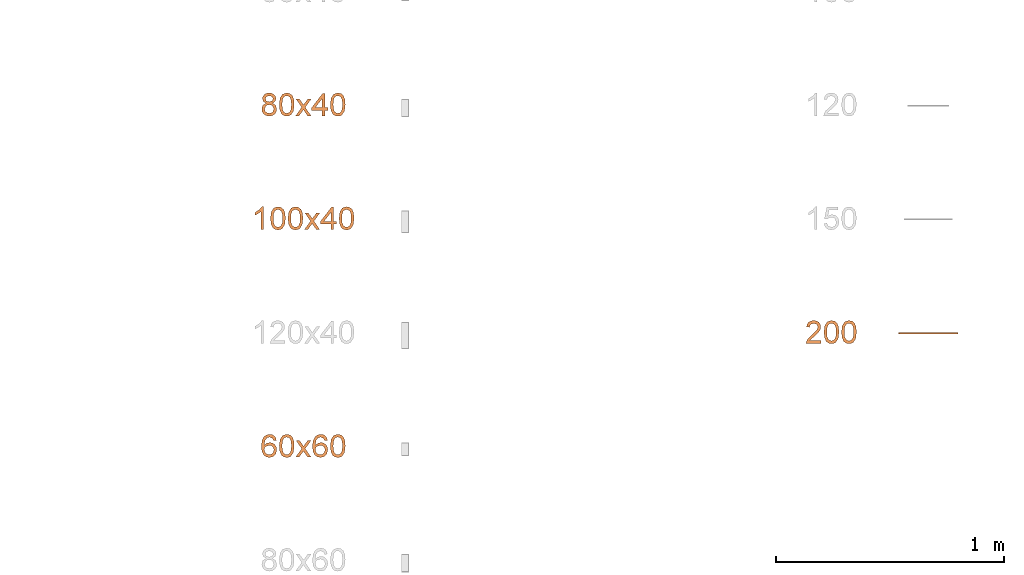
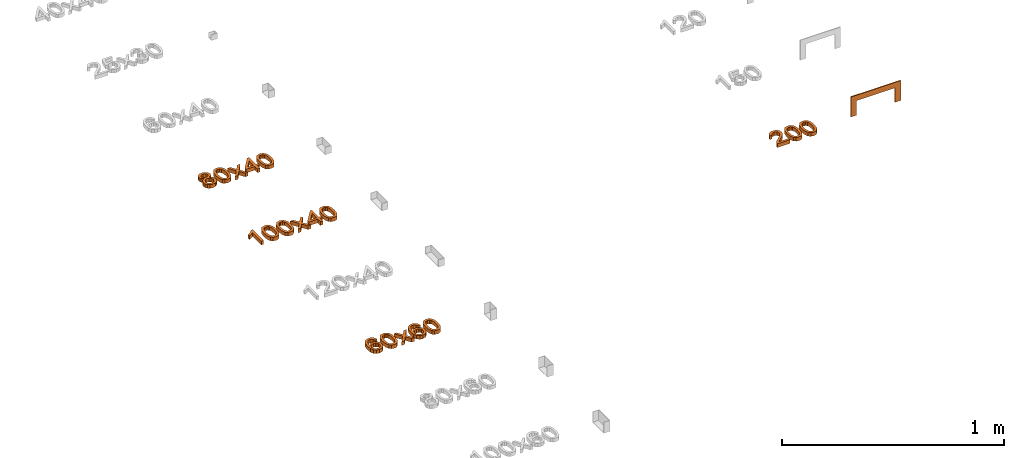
# One storey, part 64 of 71: 5 proxies.
"""IFC2X3 building model written with IfcOpenShell, lengths in millimetres."""

from ifc_helpers import new_model, entity, si_unit, converted_unit, derived_unit, direction, frame, origin, place, context, subcontext, project, spatial, polyline, outline, extrude, source, transform, mapped, material, type_object, type_shapes, element, save


model = new_model("IFC2X3")

# Units and contexts
model_context = context("Model", 3, precision=0.01, world=origin(), true_north=direction((6.12303176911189e-17, 1.0)))
body_context = subcontext(model_context, "Body", "Model", "MODEL_VIEW")
ifc_project = project(units=[si_unit("LENGTHUNIT", "METRE", prefix="MILLI"), si_unit("AREAUNIT", "SQUARE_METRE"), si_unit("VOLUMEUNIT", "CUBIC_METRE"), converted_unit("PLANEANGLEUNIT", "DEGREE", entity("IfcRatioMeasure", 0.0174532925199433), si_unit("PLANEANGLEUNIT", "RADIAN"), dimensions=[0, 0, 0, 0, 0, 0, 0]), si_unit("MASSUNIT", "GRAM", prefix="KILO"), derived_unit("MASSDENSITYUNIT", [(si_unit("MASSUNIT", "GRAM", prefix="KILO"), 1), (si_unit("LENGTHUNIT", "METRE"), -3)]), si_unit("TIMEUNIT", "SECOND"), si_unit("FREQUENCYUNIT", "HERTZ"), si_unit("THERMODYNAMICTEMPERATUREUNIT", "DEGREE_CELSIUS"), derived_unit("THERMALTRANSMITTANCEUNIT", [(si_unit("MASSUNIT", "GRAM", prefix="KILO"), 1), (si_unit("THERMODYNAMICTEMPERATUREUNIT", "KELVIN"), -1), (si_unit("TIMEUNIT", "SECOND"), -3)]), derived_unit("VOLUMETRICFLOWRATEUNIT", [(si_unit("LENGTHUNIT", "METRE"), 3), (si_unit("TIMEUNIT", "SECOND"), -1)]), si_unit("ELECTRICCURRENTUNIT", "AMPERE"), si_unit("ELECTRICVOLTAGEUNIT", "VOLT"), si_unit("POWERUNIT", "WATT"), si_unit("FORCEUNIT", "NEWTON", prefix="KILO"), si_unit("ILLUMINANCEUNIT", "LUX"), si_unit("LUMINOUSFLUXUNIT", "LUMEN"), si_unit("LUMINOUSINTENSITYUNIT", "CANDELA"), derived_unit("USERDEFINED", [(si_unit("MASSUNIT", "GRAM", prefix="KILO"), -1), (si_unit("LENGTHUNIT", "METRE"), -2), (si_unit("TIMEUNIT", "SECOND"), 3), (si_unit("LUMINOUSFLUXUNIT", "LUMEN"), 1)]), derived_unit("LINEARVELOCITYUNIT", [(si_unit("LENGTHUNIT", "METRE"), 1), (si_unit("TIMEUNIT", "SECOND"), -1)]), si_unit("PRESSUREUNIT", "PASCAL"), derived_unit("USERDEFINED", [(si_unit("LENGTHUNIT", "METRE"), -2), (si_unit("MASSUNIT", "GRAM", prefix="KILO"), 1), (si_unit("TIMEUNIT", "SECOND"), -2)])], contexts=[model_context])

# Site, building, storey
site_placement = place(None, origin())
site = spatial("IfcSite", under=ifc_project, at=site_placement, Name="Default", CompositionType="ELEMENT")
building_placement = place(site_placement, origin())
building = spatial("IfcBuilding", under=site, at=building_placement, Name="Наименование здания", CompositionType="ELEMENT")
storey_placement = place(building_placement, origin())
storey = spatial("IfcBuildingStorey", under=building, at=storey_placement, Name="Этаж 01", CompositionType="ELEMENT", Elevation=0.0)

# Proxies
ifc_material = material(Name="DKC_Пластик_Белый")
building_element_proxy_type = type_object("IfcBuildingElementProxyType", Name="TA-GN 60x...", PredefinedType="NOTDEFINED", material=ifc_material)
shared_shape = source(origin(), body_context, "Body", "SweptSolid", [
    extrude(outline(polyline([(-130.0, -62.5000000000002), (130.0, -62.5000000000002), (130.0, 47.5000000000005), (100.0, 47.5000000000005), (100.0, -32.5000000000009), (-100.0, -32.5000000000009), (-100.0, 47.5000000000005), (-130.0, 47.5000000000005), (-130.0, -62.5000000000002)])), frame((0.0, -5.0, 47.5000000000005), z_axis=(0.0, 1.0, 0.0), x_axis=(1.0, 0.0, 0.0)), (0.0, 0.0, 1.0), 5.00000000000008),
])
type_shapes(building_element_proxy_type, [shared_shape])
proxy_1_placement = place(storey_placement, frame((26885.9059986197, 593.713303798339, 0.0)))
element("IfcBuildingElementProxy", 1, at=proxy_1_placement, inside=storey, type_object=building_element_proxy_type, material=ifc_material, Name="КНС_РамкаДляВводаRQM_ILC_DKC:TA-GN 60x...", ObjectType="TA-GN 60x...", context=body_context, shape_type="MappedRepresentation", body=[
    mapped(shared_shape, transform((0.0, 0.0, 0.0), scale=1.0)),
])
proxy_2_placement = place(storey_placement, origin())
element("IfcBuildingElementProxy", 2, at=proxy_2_placement, inside=storey, Name="Текст модели:100 мм Arial", ObjectType="Текст модели:100 мм Arial", context=body_context, shape_type="SweptSolid", body=[
    extrude(outline(polyline([(10.1224324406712, -11.221212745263), (26.4477736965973, -11.221212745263), (39.6861381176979, -0.0909413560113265), (44.6322314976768, 11.3078156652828), (44.5856416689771, 23.4168603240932), (39.6073830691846, 34.83462909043), (29.7584701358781, 44.1595584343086), (17.4236057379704, 49.7956565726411), (4.98749274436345, 50.1469317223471), (-6.20047708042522, 45.7236060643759), (-14.7909119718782, 37.0359017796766), (-20.0781666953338, 21.0056847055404), (-14.5070621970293, 5.37692494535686), (-28.0684052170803, 5.15563707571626), (-37.7221714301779, -2.60845010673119), (-41.5236361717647, -11.9357006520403), (-41.0036870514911, -22.2232653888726), (-36.1916154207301, -32.1870777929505), (-27.1167126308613, -40.5430713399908), (-16.0503295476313, -45.8123091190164), (-5.18246445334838, -46.5706787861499), (4.3845330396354, -43.2361071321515), (11.5483133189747, -36.2265209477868), (15.2516244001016, -24.0826582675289), (10.1224324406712, -11.221212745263)]), holes=[polyline([(1.34077476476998, -28.9039041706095), (-7.53771017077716, -33.981587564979), (-20.2415350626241, -30.0339976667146), (-28.5905650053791, -19.690281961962), (-26.9800933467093, -9.13787919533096), (-18.1108932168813, -3.8764892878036), (-5.45128168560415, -7.82385811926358), (3.15927028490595, -18.2403048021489), (1.34077476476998, -28.9039041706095)]), polyline([(29.0262968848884, 6.56051660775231), (17.1806533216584, -1.51571690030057), (9.68494123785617, -1.27757268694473), (1.95268767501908, 2.32885586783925), (-4.46267094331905, 8.27886886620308), (-7.64161156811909, 15.3010558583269), (-4.59707955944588, 29.6929468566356), (7.31333657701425, 37.7994665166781), (14.8367372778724, 37.4872096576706), (22.6595729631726, 33.8012523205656), (30.3730358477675, 25.5864099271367), (32.5711030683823, 15.5727469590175), (29.0262968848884, 6.56051660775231)])]), frame((23989.3730739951, 1598.34577768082, 0.0), z_axis=(0.0, 0.0, 1.0), x_axis=(-0.829266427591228, -0.558853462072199, 0.0)), (0.0, 0.0, 1.0), 20.0),
    extrude(outline(polyline([(-7.02884310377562, -33.3490673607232), (17.5323805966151, -33.3490673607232), (35.1984171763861, -27.6137612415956), (43.3439841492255, -18.4876517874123), (47.0516941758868, -5.75150665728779), (46.7162020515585, 4.48638208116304), (43.446577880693, 13.0955287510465), (27.9444305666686, 25.6659118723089), (-0.314338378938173, 32.2325535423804), (-24.0296505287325, 32.367828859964), (-39.4143020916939, 28.0260881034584), (-49.7293680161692, 18.9002174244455), (-54.4436715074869, 4.63998875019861), (-50.8676582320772, -14.1301059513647), (-35.4058547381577, -26.7333390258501), (-7.02884310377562, -33.3490673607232)]), holes=[polyline([(-5.77428774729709, -20.8548320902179), (-25.015764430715, -17.3562860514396), (-36.7257089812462, -11.5717922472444), (-41.0962588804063, -4.77599682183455), (-41.9669219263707, 3.21464792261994), (-39.2244253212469, 11.2791292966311), (-32.8654063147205, 17.2229259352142), (-20.9698370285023, 20.2947501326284), (-1.61768958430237, 19.743314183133), (17.851414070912, 16.270770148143), (28.7803640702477, 10.7141596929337), (33.5546988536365, 3.61815959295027), (34.5599568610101, -4.4725533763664), (31.9421230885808, -12.192319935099), (25.8471825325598, -18.1754808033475), (14.0250679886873, -21.4027476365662), (-5.77428774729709, -20.8548320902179)])]), frame((24067.2152691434, 1592.48792113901, 0.0), z_axis=(0.0, 0.0, 1.0), x_axis=(0.101851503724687, -0.994799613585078, 0.0)), (0.0, 0.0, 1.0), 20.0),
    extrude(outline(polyline([(-34.5302215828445, -38.4265006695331), (-19.4225343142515, -38.4265006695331), (-0.341721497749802, -12.0616243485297), (2.47870713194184, -16.1328517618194), (17.8561745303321, -38.4265006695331), (32.9638617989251, -38.4265006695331), (7.40832586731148, -1.34399555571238), (33.9448804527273, 35.3461020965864), (18.8371931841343, 35.3461020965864), (4.95577923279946, 16.1671874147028), (0.0261604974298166, 9.34910777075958), (-5.66374769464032, 17.6877663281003), (-17.8529044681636, 35.3461020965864), (-32.9605917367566, 35.3461020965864), (-7.69936140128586, -1.34399555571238), (-34.5302215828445, -38.4265006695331)])), frame((24140.0569260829, 1585.09124486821, 0.0)), (0.0, 0.0, 1.0), 20.0),
    extrude(outline(polyline([(-1.14154897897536, -36.3868737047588), (11.4154897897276, -36.3868737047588), (11.4154897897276, -12.8424260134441), (23.9725285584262, -12.8424260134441), (23.9725285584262, -0.285387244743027), (11.4154897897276, -0.285387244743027), (11.4154897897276, 62.499806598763), (1.99771071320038, 62.499806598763), (-46.6608145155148, -0.285387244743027), (-46.6608145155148, -12.8424260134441), (-1.14154897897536, -12.8424260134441), (-1.14154897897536, -36.3868737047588)]), holes=[polyline([(-1.14154897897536, -0.285387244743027), (-31.2097707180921, -0.285387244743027), (-1.14154897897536, 38.5139005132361), (-1.14154897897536, -0.285387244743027)])]), frame((24222.8208620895, 1583.05161790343, 0.0)), (0.0, 0.0, 1.0), 20.0),
    extrude(outline(polyline([(-7.02884310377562, -33.3490673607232), (17.5323805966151, -33.3490673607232), (35.1984171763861, -27.6137612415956), (43.3439841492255, -18.4876517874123), (47.0516941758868, -5.75150665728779), (46.7162020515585, 4.48638208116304), (43.446577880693, 13.0955287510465), (27.9444305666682, 25.6659118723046), (-0.314338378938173, 32.2325535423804), (-24.0296505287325, 32.367828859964), (-39.4143020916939, 28.0260881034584), (-49.7293680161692, 18.9002174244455), (-54.4436715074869, 4.63998875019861), (-50.8676582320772, -14.1301059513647), (-35.4058547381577, -26.7333390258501), (-7.02884310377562, -33.3490673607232)]), holes=[polyline([(-5.77428774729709, -20.8548320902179), (-25.015764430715, -17.3562860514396), (-36.7257089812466, -11.5717922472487), (-41.0962588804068, -4.77599682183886), (-41.9669219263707, 3.21464792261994), (-39.2244253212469, 11.2791292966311), (-32.8654063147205, 17.2229259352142), (-20.9698370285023, 20.2947501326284), (-1.61768958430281, 19.7433141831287), (17.851414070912, 16.270770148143), (28.7803640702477, 10.7141596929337), (33.5546988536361, 3.61815959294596), (34.5599568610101, -4.4725533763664), (31.9421230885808, -12.192319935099), (25.8471825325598, -18.1754808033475), (14.0250679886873, -21.4027476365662), (-5.77428774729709, -20.8548320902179)])]), frame((24291.672337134, 1592.48792113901, 0.0), z_axis=(0.0, 0.0, 1.0), x_axis=(0.101851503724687, -0.994799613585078, 0.0)), (0.0, 0.0, 1.0), 20.0),
])
proxy_3_placement = place(storey_placement, origin())
element("IfcBuildingElementProxy", 3, at=proxy_3_placement, inside=storey, Name="Текст модели:100 мм Arial", ObjectType="Текст модели:100 мм Arial", context=body_context, shape_type="SweptSolid", body=[
    extrude(outline(polyline([(-63.8793021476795, -16.9184842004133), (36.5770080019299, -16.9184842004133), (36.5770080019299, -8.82508030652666), (23.2106288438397, 2.34626961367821), (11.4629304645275, 20.7526321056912), (-0.407395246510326, 20.7526321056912), (5.9324378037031, 7.53340574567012), (14.4059864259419, -4.3614454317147), (-63.8793021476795, -4.3614454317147), (-63.8793021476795, -16.9184842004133)])), frame((23948.1263490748, 1110.54404634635, 0.0), z_axis=(0.0, 0.0, 1.0), x_axis=(0.0, 1.0, 0.0)), (0.0, 0.0, 1.0), 20.0),
    extrude(outline(polyline([(-7.02884310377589, -33.3490673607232), (17.5323805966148, -33.3490673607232), (35.1984171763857, -27.6137612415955), (43.3439841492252, -18.4876517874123), (47.0516941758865, -5.75150665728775), (46.7162020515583, 4.48638208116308), (43.4465778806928, 13.0955287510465), (27.9444305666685, 25.6659118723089), (-0.314338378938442, 32.2325535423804), (-24.0296505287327, 32.367828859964), (-39.4143020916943, 28.0260881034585), (-49.7293680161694, 18.9002174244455), (-54.4436715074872, 4.63998875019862), (-50.8676582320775, -14.1301059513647), (-35.405854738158, -26.7333390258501), (-7.02884310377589, -33.3490673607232)]), holes=[polyline([(-5.77428774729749, -20.8548320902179), (-25.0157644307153, -17.3562860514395), (-36.7257089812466, -11.5717922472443), (-41.0962588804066, -4.77599682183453), (-41.9669219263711, 3.21464792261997), (-39.224425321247, 11.2791292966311), (-32.8654063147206, 17.2229259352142), (-20.9698370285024, 20.2947501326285), (-1.61768958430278, 19.743314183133), (17.8514140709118, 16.270770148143), (28.7803640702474, 10.7141596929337), (33.5546988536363, 3.61815959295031), (34.5599568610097, -4.47255337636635), (31.9421230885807, -12.192319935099), (25.8471825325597, -18.1754808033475), (14.0250679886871, -21.4027476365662), (-5.77428774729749, -20.8548320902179)])]), frame((24028.7593379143, 1092.48792113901, 0.0), z_axis=(0.0, 0.0, 1.0), x_axis=(0.101851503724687, -0.994799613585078, 0.0)), (0.0, 0.0, 1.0), 20.0),
    extrude(outline(polyline([(-7.02884310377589, -33.3490673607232), (17.5323805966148, -33.3490673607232), (35.1984171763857, -27.6137612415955), (43.3439841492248, -18.4876517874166), (47.0516941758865, -5.75150665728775), (46.7162020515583, 4.48638208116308), (43.4465778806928, 13.0955287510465), (27.944430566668, 25.6659118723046), (-0.314338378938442, 32.2325535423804), (-24.0296505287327, 32.367828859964), (-39.4143020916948, 28.0260881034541), (-49.7293680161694, 18.9002174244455), (-54.4436715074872, 4.63998875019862), (-50.867658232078, -14.130105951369), (-35.405854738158, -26.7333390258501), (-7.02884310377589, -33.3490673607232)]), holes=[polyline([(-5.77428774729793, -20.8548320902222), (-25.0157644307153, -17.3562860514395), (-36.725708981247, -11.5717922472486), (-41.096258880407, -4.77599682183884), (-41.9669219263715, 3.21464792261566), (-39.224425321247, 11.2791292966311), (-32.8654063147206, 17.2229259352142), (-20.9698370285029, 20.2947501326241), (-1.61768958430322, 19.7433141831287), (17.8514140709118, 16.270770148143), (28.7803640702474, 10.7141596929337), (33.5546988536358, 3.618159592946), (34.5599568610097, -4.47255337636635), (31.9421230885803, -12.1923199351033), (25.8471825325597, -18.1754808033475), (14.0250679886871, -21.4027476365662), (-5.77428774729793, -20.8548320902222)])]), frame((24105.6712003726, 1092.48792113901, 0.0), z_axis=(0.0, 0.0, 1.0), x_axis=(0.101851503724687, -0.994799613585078, 0.0)), (0.0, 0.0, 1.0), 20.0),
    extrude(outline(polyline([(-34.5302215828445, -38.4265006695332), (-19.4225343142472, -38.4265006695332), (-0.341721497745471, -12.0616243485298), (2.47870713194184, -16.1328517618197), (17.8561745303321, -38.4265006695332), (32.9638617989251, -38.4265006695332), (7.40832586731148, -1.34399555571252), (33.9448804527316, 35.3461020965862), (18.8371931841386, 35.3461020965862), (4.95577923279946, 16.1671874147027), (0.0261604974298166, 9.34910777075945), (-5.66374769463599, 17.6877663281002), (-17.8529044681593, 35.3461020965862), (-32.9605917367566, 35.3461020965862), (-7.69936140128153, -1.34399555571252), (-34.5302215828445, -38.4265006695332)])), frame((24178.512857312, 1085.09124486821, 0.0)), (0.0, 0.0, 1.0), 20.0),
    extrude(outline(polyline([(-1.14154897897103, -36.3868737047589), (11.4154897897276, -36.3868737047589), (11.4154897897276, -12.8424260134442), (23.9725285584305, -12.8424260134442), (23.9725285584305, -0.285387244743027), (11.4154897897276, -0.285387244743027), (11.4154897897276, 62.4998065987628), (1.99771071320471, 62.4998065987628), (-46.6608145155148, -0.285387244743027), (-46.6608145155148, -12.8424260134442), (-1.14154897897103, -12.8424260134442), (-1.14154897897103, -36.3868737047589)]), holes=[polyline([(-1.14154897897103, -0.285387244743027), (-31.2097707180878, -0.285387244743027), (-1.14154897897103, 38.5139005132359), (-1.14154897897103, -0.285387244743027)])]), frame((24261.2767933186, 1083.05161790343, 0.0)), (0.0, 0.0, 1.0), 20.0),
    extrude(outline(polyline([(-7.02884310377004, -33.3490673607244), (17.5323805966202, -33.3490673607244), (35.1984171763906, -27.6137612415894), (43.343984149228, -18.487651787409), (47.0516941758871, -5.75150665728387), (46.716202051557, 4.4863820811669), (43.44657788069, 13.0955287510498), (27.9444305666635, 25.6659118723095), (-0.314338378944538, 32.2325535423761), (-24.0296505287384, 32.3678288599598), (-39.4143020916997, 28.0260881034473), (-49.7293680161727, 18.9002174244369), (-54.4436715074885, 4.63998875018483), (-50.8676582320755, -14.1301059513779), (-35.4058547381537, -26.7333390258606), (-7.02884310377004, -33.3490673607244)]), holes=[polyline([(-5.77428774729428, -20.8548320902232), (-25.0157644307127, -17.3562860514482), (-36.725708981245, -11.571792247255), (-41.0962588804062, -4.77599682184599), (-41.9669219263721, 3.21464792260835), (-39.2244253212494, 11.2791292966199), (-32.8654063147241, 17.2229259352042), (-20.9698370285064, 20.2947501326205), (-1.61768958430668, 19.7433141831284), (17.8514140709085, 16.2707701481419), (28.7803640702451, 10.7141596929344), (33.5546988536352, 3.61815959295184), (34.5599568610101, -4.47255337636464), (31.9421230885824, -12.1923199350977), (25.8471825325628, -18.175480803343), (14.0250679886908, -21.4027476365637), (-5.77428774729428, -20.8548320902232)])]), frame((24330.1282683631, 1092.48792113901, 0.0), z_axis=(0.0, 0.0, 1.0), x_axis=(0.101851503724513, -0.994799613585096, 0.0)), (0.0, 0.0, 1.0), 20.0),
])
proxy_4_placement = place(storey_placement, origin())
element("IfcBuildingElementProxy", 4, at=proxy_4_placement, inside=storey, Name="Текст модели:100 мм Arial", ObjectType="Текст модели:100 мм Arial", context=body_context, shape_type="SweptSolid", body=[
    extrude(outline(polyline([(6.79275401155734, -32.5027761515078), (18.3659045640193, -32.5027761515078), (28.1525204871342, -28.8011371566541), (35.6312934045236, -21.7178704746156), (40.2809149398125, -11.5729874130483), (41.4130789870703, 3.2366707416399), (36.139124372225, 16.3729018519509), (21.8599739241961, 28.8803269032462), (-1.50836821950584, 38.2054593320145), (-23.6059131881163, 41.7609274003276), (-39.9814227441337, 38.5965283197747), (-51.1650797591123, 29.9216784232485), (-57.6870671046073, 16.945794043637), (-57.9805556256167, -0.049487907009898), (-49.2081886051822, -14.3141019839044), (-33.6167855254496, -22.935056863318), (-20.6265742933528, -24.2502330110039), (-8.97800352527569, -20.6254922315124), (0.0919027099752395, -13.0350962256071), (5.34612034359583, -2.45330669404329), (5.85483161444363, 11.6447254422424), (-0.843339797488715, 24.9910631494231), (19.7707676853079, 15.5765036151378), (28.4840991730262, 4.26766164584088), (28.3893512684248, -7.46374532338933), (19.9956250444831, -18.19363367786), (8.63303585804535, -19.9825396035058), (6.79275401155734, -32.5027761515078)]), holes=[polyline([(-18.7586717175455, 29.9549594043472), (-11.632811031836, 26.3613362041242), (-6.94154076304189, 20.2038317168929), (-5.85783236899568, 4.13761066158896), (-9.48331864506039, -3.95286412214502), (-15.1077394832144, -9.26901644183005), (-22.3091633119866, -11.5969098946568), (-30.6656585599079, -10.7226080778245), (-38.6094491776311, -7.06141592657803), (-43.8637090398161, -1.22509865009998), (-46.1835287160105, 6.17768396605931), (-45.323998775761, 14.5382721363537), (-39.6901171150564, 24.7221971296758), (-30.0168134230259, 30.0585493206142), (-18.7586717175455, 29.9549594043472)])]), frame((23991.2577879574, 105.212482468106, 0.0), z_axis=(0.0, 0.0, 1.0), x_axis=(-0.267015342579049, 0.963692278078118, 0.0)), (0.0, 0.0, 1.0), 20.0),
    extrude(outline(polyline([(-7.02884310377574, -33.3490673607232), (17.5323805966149, -33.3490673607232), (35.1984171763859, -27.6137612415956), (43.3439841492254, -18.4876517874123), (47.0516941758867, -5.7515066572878), (46.7162020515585, 4.48638208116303), (43.4465778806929, 13.0955287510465), (27.9444305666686, 25.6659118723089), (-0.314338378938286, 32.2325535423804), (-24.0296505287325, 32.367828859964), (-39.4143020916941, 28.0260881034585), (-49.7293680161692, 18.9002174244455), (-54.443671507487, 4.63998875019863), (-50.8676582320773, -14.1301059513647), (-35.4058547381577, -26.7333390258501), (-7.02884310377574, -33.3490673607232)]), holes=[polyline([(-5.77428774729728, -20.8548320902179), (-25.0157644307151, -17.3562860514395), (-36.7257089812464, -11.5717922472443), (-41.0962588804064, -4.77599682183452), (-41.9669219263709, 3.21464792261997), (-39.2244253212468, 11.2791292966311), (-32.8654063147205, 17.2229259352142), (-20.9698370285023, 20.2947501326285), (-1.61768958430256, 19.743314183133), (17.851414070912, 16.270770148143), (28.7803640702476, 10.7141596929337), (33.5546988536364, 3.61815959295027), (34.55995686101, -4.4725533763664), (31.9421230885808, -12.192319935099), (25.8471825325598, -18.1754808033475), (14.0250679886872, -21.4027476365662), (-5.77428774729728, -20.8548320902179)])]), frame((24067.2152691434, 92.4879211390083, 0.0), z_axis=(0.0, 0.0, 1.0), x_axis=(0.101851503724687, -0.994799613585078, 0.0)), (0.0, 0.0, 1.0), 20.0),
    extrude(outline(polyline([(-34.5302215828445, -38.4265006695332), (-19.4225343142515, -38.4265006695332), (-0.341721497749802, -12.0616243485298), (2.47870713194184, -16.1328517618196), (17.8561745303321, -38.4265006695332), (32.9638617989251, -38.4265006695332), (7.40832586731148, -1.34399555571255), (33.9448804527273, 35.3461020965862), (18.8371931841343, 35.3461020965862), (4.95577923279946, 16.1671874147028), (0.0261604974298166, 9.34910777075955), (-5.66374769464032, 17.6877663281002), (-17.8529044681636, 35.3461020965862), (-32.9605917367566, 35.3461020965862), (-7.69936140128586, -1.34399555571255), (-34.5302215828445, -38.4265006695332)])), frame((24140.0569260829, 85.0912448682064, 0.0)), (0.0, 0.0, 1.0), 20.0),
    extrude(outline(polyline([(6.79275401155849, -32.5027761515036), (18.3659045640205, -32.5027761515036), (28.1525204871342, -28.8011371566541), (35.6312934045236, -21.7178704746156), (40.2809149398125, -11.5729874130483), (41.4130789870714, 3.23667074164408), (36.139124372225, 16.3729018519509), (21.8599739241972, 28.8803269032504), (-1.50836821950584, 38.2054593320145), (-23.6059131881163, 41.7609274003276), (-39.9814227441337, 38.5965283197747), (-51.1650797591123, 29.9216784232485), (-57.6870671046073, 16.945794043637), (-57.9805556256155, -0.0494879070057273), (-49.2081886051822, -14.3141019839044), (-33.6167855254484, -22.9350568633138), (-20.6265742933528, -24.2502330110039), (-8.97800352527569, -20.6254922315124), (0.0919027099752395, -13.0350962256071), (5.34612034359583, -2.45330669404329), (5.85483161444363, 11.6447254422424), (-0.843339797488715, 24.9910631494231), (19.7707676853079, 15.5765036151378), (28.4840991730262, 4.26766164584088), (28.3893512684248, -7.46374532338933), (19.9956250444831, -18.19363367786), (8.63303585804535, -19.9825396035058), (6.79275401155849, -32.5027761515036)]), holes=[polyline([(-18.7586717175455, 29.9549594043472), (-11.6328110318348, 26.3613362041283), (-6.94154076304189, 20.2038317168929), (-5.85783236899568, 4.13761066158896), (-9.48331864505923, -3.95286412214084), (-15.1077394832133, -9.26901644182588), (-22.3091633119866, -11.5969098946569), (-30.6656585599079, -10.7226080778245), (-38.60944917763, -7.06141592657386), (-43.8637090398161, -1.22509865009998), (-46.1835287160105, 6.17768396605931), (-45.323998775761, 14.5382721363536), (-39.6901171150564, 24.7221971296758), (-30.0168134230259, 30.0585493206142), (-18.7586717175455, 29.9549594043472)])]), frame((24215.714855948, 105.212482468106, 0.0), z_axis=(0.0, 0.0, 1.0), x_axis=(-0.267015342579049, 0.963692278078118, 0.0)), (0.0, 0.0, 1.0), 20.0),
    extrude(outline(polyline([(-7.02884310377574, -33.3490673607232), (17.5323805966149, -33.3490673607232), (35.1984171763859, -27.6137612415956), (43.3439841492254, -18.4876517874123), (47.0516941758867, -5.7515066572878), (46.7162020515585, 4.48638208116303), (43.4465778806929, 13.0955287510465), (27.9444305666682, 25.6659118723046), (-0.314338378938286, 32.2325535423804), (-24.0296505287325, 32.367828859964), (-39.4143020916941, 28.0260881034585), (-49.7293680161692, 18.9002174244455), (-54.443671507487, 4.63998875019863), (-50.8676582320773, -14.1301059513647), (-35.4058547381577, -26.7333390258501), (-7.02884310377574, -33.3490673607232)]), holes=[polyline([(-5.77428774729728, -20.8548320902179), (-25.0157644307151, -17.3562860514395), (-36.7257089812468, -11.5717922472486), (-41.0962588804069, -4.77599682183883), (-41.9669219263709, 3.21464792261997), (-39.2244253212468, 11.2791292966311), (-32.8654063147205, 17.2229259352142), (-20.9698370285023, 20.2947501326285), (-1.617689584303, 19.7433141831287), (17.851414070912, 16.270770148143), (28.7803640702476, 10.7141596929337), (33.554698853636, 3.61815959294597), (34.55995686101, -4.4725533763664), (31.9421230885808, -12.192319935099), (25.8471825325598, -18.1754808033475), (14.0250679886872, -21.4027476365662), (-5.77428774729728, -20.8548320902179)])]), frame((24291.672337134, 92.4879211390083, 0.0), z_axis=(0.0, 0.0, 1.0), x_axis=(0.101851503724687, -0.994799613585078, 0.0)), (0.0, 0.0, 1.0), 20.0),
])
proxy_5_placement = place(storey_placement, origin())
element("IfcBuildingElementProxy", 5, at=proxy_5_placement, inside=storey, Name="Текст модели:100 мм Arial", ObjectType="Текст модели:100 мм Arial", context=body_context, shape_type="SweptSolid", body=[
    extrude(outline(polyline([(-32.3858783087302, -45.1669477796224), (-32.3858783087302, -57.7239865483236), (33.5385752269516, -57.7239865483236), (32.1896745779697, -49.0664969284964), (24.5622545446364, -35.736905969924), (8.84143061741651, -21.1810416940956), (-12.8390816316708, -0.260818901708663), (-18.2592096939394, 13.9639515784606), (-13.1456499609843, 25.4786580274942), (0.208466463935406, 30.1752848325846), (14.1266686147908, 25.5890226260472), (19.4119066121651, 12.9093565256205), (31.9689453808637, 14.4789863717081), (28.9247218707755, 26.6252235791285), (22.3426998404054, 35.4973110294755), (12.5662358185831, 40.9235704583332), (-0.0613136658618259, 42.7323236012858), (-12.7808336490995, 40.721235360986), (-22.5389035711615, 34.6879706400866), (-28.746912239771, 25.6748617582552), (-30.8162484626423, 14.7242410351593), (-28.5844310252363, 2.81712712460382), (-21.1654774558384, -9.49465698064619), (-3.17604789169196, -26.6992716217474), (11.2694517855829, -38.7780637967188), (16.9348345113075, -45.1669477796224), (-32.3858783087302, -45.1669477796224)])), frame((26382.1534172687, 604.388730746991, 0.0), z_axis=(0.0, 0.0, -1.0), x_axis=(-1.0, 0.0, 0.0)), (0.0, 0.0, -1.0), 20.0),
    extrude(outline(polyline([(-7.0288431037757, -33.3490673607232), (17.5323805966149, -33.3490673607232), (35.198417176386, -27.6137612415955), (43.3439841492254, -18.4876517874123), (47.0516941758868, -5.75150665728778), (46.7162020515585, 4.48638208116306), (43.446577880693, 13.0955287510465), (27.9444305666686, 25.6659118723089), (-0.31433837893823, 32.2325535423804), (-24.0296505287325, 32.3678288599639), (-39.4143020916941, 28.0260881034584), (-49.7293680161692, 18.9002174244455), (-54.443671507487, 4.6399887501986), (-50.8676582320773, -14.1301059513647), (-35.4058547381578, -26.7333390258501), (-7.0288431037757, -33.3490673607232)]), holes=[polyline([(-5.7742877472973, -20.8548320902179), (-25.0157644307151, -17.3562860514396), (-36.7257089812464, -11.5717922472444), (-41.0962588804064, -4.77599682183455), (-41.9669219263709, 3.21464792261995), (-39.2244253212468, 11.2791292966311), (-32.8654063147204, 17.2229259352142), (-20.9698370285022, 20.2947501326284), (-1.61768958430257, 19.743314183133), (17.851414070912, 16.270770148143), (28.7803640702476, 10.7141596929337), (33.5546988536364, 3.6181595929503), (34.55995686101, -4.47255337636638), (31.9421230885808, -12.192319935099), (25.8471825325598, -18.1754808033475), (14.0250679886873, -21.4027476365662), (-5.7742877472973, -20.8548320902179)])]), frame((26460.9878719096, 592.487921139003, 0.0), z_axis=(0.0, 0.0, 1.0), x_axis=(0.101851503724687, -0.994799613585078, 0.0)), (0.0, 0.0, 1.0), 20.0),
    extrude(outline(polyline([(-7.0288431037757, -33.3490673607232), (17.5323805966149, -33.3490673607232), (35.198417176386, -27.6137612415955), (43.343984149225, -18.4876517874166), (47.0516941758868, -5.75150665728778), (46.7162020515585, 4.48638208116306), (43.446577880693, 13.0955287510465), (27.9444305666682, 25.6659118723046), (-0.31433837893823, 32.2325535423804), (-24.0296505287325, 32.3678288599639), (-39.4143020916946, 28.0260881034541), (-49.7293680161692, 18.9002174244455), (-54.443671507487, 4.6399887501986), (-50.8676582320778, -14.130105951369), (-35.4058547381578, -26.7333390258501), (-7.0288431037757, -33.3490673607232)]), holes=[polyline([(-5.77428774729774, -20.8548320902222), (-25.0157644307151, -17.3562860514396), (-36.7257089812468, -11.5717922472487), (-41.0962588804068, -4.77599682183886), (-41.9669219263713, 3.21464792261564), (-39.2244253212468, 11.2791292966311), (-32.8654063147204, 17.2229259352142), (-20.9698370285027, 20.2947501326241), (-1.61768958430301, 19.7433141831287), (17.851414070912, 16.270770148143), (28.7803640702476, 10.7141596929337), (33.554698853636, 3.61815959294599), (34.55995686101, -4.47255337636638), (31.9421230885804, -12.1923199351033), (25.8471825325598, -18.1754808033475), (14.0250679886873, -21.4027476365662), (-5.77428774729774, -20.8548320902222)])]), frame((26537.8997343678, 592.487921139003, 0.0), z_axis=(0.0, 0.0, 1.0), x_axis=(0.101851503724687, -0.994799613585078, 0.0)), (0.0, 0.0, 1.0), 20.0),
])

save(model, "model.ifc")
